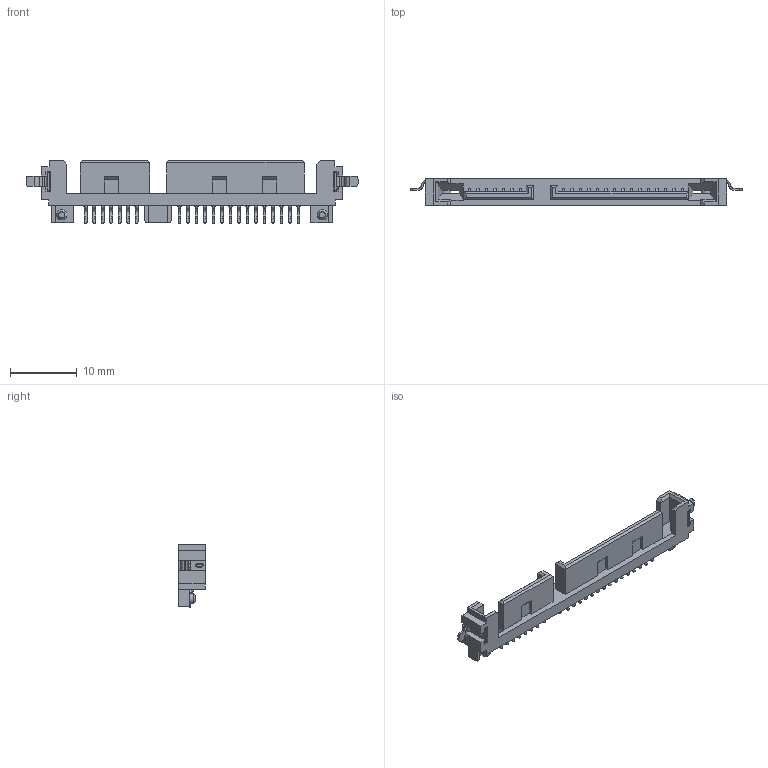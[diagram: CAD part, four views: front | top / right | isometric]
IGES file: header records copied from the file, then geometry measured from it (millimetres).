
Global section: file name: E:\KINGCONN\SATA7+15 CBSGZ2.igs; native system: NX V8.0; preprocessor: SIEMENS PLM Software NX 8.0; date: 20141103.173640; units: millimetre
Bounding box: 49.62 x 4 x 9.35 mm (x, y, z)
Surface area: 1810.6 mm2 (no closed solid volume)
Topology: 0 solids, 0 shells, 1958 faces, 13209 edges, 14498 vertices
Faces by surface type: bspline 1958
